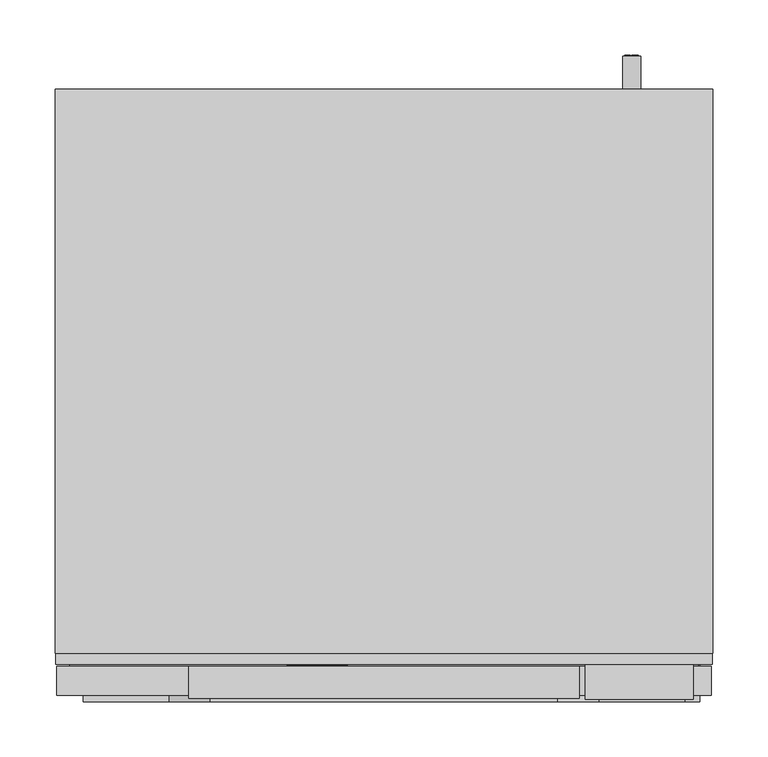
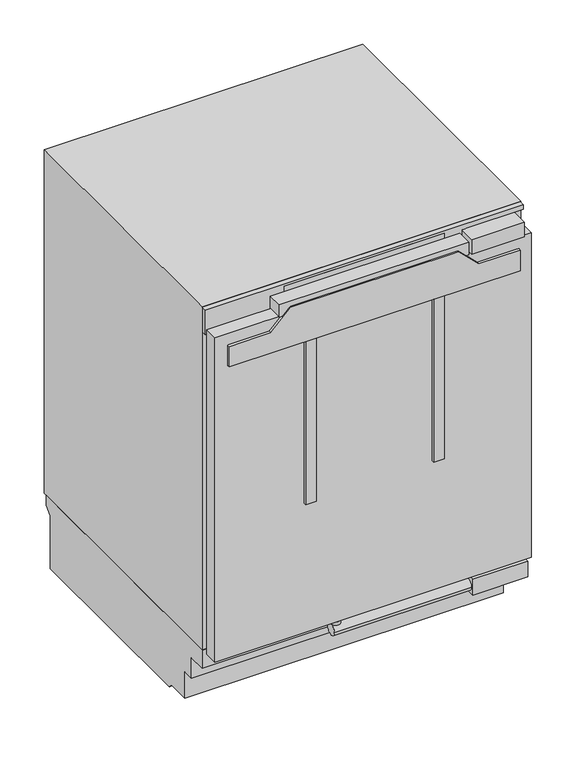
"""IFC4 building model written with IfcOpenShell, lengths in millimetres: proxy geometry, 12519380_EU1_FNUS7040D : 37704010_EU1_12519380_FNUS7040D."""

from ifc_helpers import new_model, si_unit, point, frame, frame_2d, origin, origin_with_axes, place, context, project, spatial, polyline, circle_curve, ellipse_curve, trimmed, segment, composite_curve, outline, extrude, faceted_brep, source, transform, mapped, element, save
from ifc_brep_helpers import plane_surface, cylinder_surface, revolved_surface, extruded_surface, advanced_brep


def specialty_equipment_8ff5ed72(model_context):
    return source(origin(), model_context, "Body", "SolidModel", [
        extrude(outline(polyline([(795.9349293, -88.017), (795.9349293, -86.928), (789.9139293, -86.928), (789.9139293, -88.017), (788.4019293, -88.017), (788.4019293, -84.057), (789.9139293, -84.057), (789.9139293, -85.137), (793.7360541, -85.137), (788.4019293, -81.114), (793.8421516, -77.073), (789.9139293, -77.073), (789.9139293, -78.18), (788.4019293, -78.18), (788.4019293, -70.998), (789.9139293, -70.998), (789.9139293, -72.141), (795.9349293, -72.141), (795.9349293, -70.998), (797.4019293, -70.998), (797.4019293, -76.479), (794.0269293, -79.107), (797.4019293, -81.744), (797.4019293, -88.017), (795.9349293, -88.017)])), frame((0.0, 33.1, 0.0), z_axis=(0.0, 1.0, 0.0), x_axis=(0.0, 0.0, 1.0)), (0.0, 0.0, 1.0), 1.0),
        extrude(outline(polyline([(795.9349293, -51.495), (795.9349293, -50.415), (789.9139293, -50.415), (789.9139293, -51.495), (788.4019293, -51.495), (788.4019293, -44.196), (789.9139293, -44.196), (789.9139293, -45.303), (797.4019293, -45.303), (797.4019293, -51.495), (795.9349293, -51.495)])), frame((0.0, 33.1, 0.0), z_axis=(0.0, 1.0, 0.0), x_axis=(0.0, 0.0, 1.0)), (0.0, 0.0, 1.0), 1.0),
        extrude(outline(polyline([(796.8709293, -67.857), (795.4129293, -67.173), (796.8349293, -64.122), (798.2929293, -64.797), (796.8709293, -67.857)])), frame((0.0, 33.1, 0.0), z_axis=(0.0, 1.0, 0.0), x_axis=(0.0, 0.0, 1.0)), (0.0, 0.0, 1.0), 1.0),
        extrude(outline(polyline([(795.2149293, -70.08), (793.6039293, -70.08), (793.6039293, -69.009), (789.9139293, -69.009), (789.9139293, -70.08), (788.4019293, -70.08), (788.4019293, -62.979), (789.9139293, -62.979), (789.9139293, -64.023), (795.2149293, -64.023), (795.2149293, -70.08)])), frame((0.0, 33.1, 0.0), z_axis=(0.0, 1.0, 0.0), x_axis=(0.0, 0.0, 1.0)), (0.0, 0.0, 1.0), 1.0),
        advanced_brep(
        [(-58.02, 33.1, 790.5349293), (-58.02, 33.1, 791.4439293), (-51.999, 33.1, 791.4439293), (-62.475, 33.1, 791.4439293), (-60.0, 33.1, 788.4019293), (-52.152, 33.1, 790.5349293), (-54.87, 33.1, 790.5349293), (-57.012, 33.1, 789.5269293), (-58.02, 33.1, 792.5959293), (-58.02, 33.1, 793.5769293), (-56.481, 33.1, 793.5769293), (-56.481, 33.1, 792.5959293), (-58.02, 34.1, 790.5349293), (-57.012, 34.1, 789.5269293), (-54.87, 34.1, 790.5349293), (-52.152, 34.1, 790.5349293), (-60.0, 34.1, 788.4019293), (-62.475, 34.1, 791.4439293), (-51.999, 34.1, 791.4439293), (-58.02, 34.1, 791.4439293), (-58.02, 34.1, 792.5959293), (-56.481, 34.1, 792.5959293), (-56.481, 34.1, 793.5769293), (-58.02, 34.1, 793.5769293)],
        [
            (0, 1),
            (1, 2),
            (2, 3, ellipse_curve(frame((-57.237, 33.1, 791.4439293), z_axis=(0.0, -1.0, 0.0), x_axis=(-1.0, 0.0, 0.0)), 5.238, 4.329)),
            (3, 4, circle_curve(frame((-58.9919509, 33.1, 791.7499293), z_axis=(0.0, -1.0, 0.0), x_axis=(0.0, 0.0, -1.0)), 3.4964649)),
            (4, 5, circle_curve(frame((-57.3418572, 33.1, 794.1259293), z_axis=(0.0, -1.0, 0.0), x_axis=(0.0, 0.0, -1.0)), 6.3110933)),
            (5, 6),
            (6, 7, circle_curve(frame((-56.5720588, 33.1, 791.3719293), z_axis=(0.0, 1.0, 0.0), x_axis=(0.0, 0.0, -1.0)), 1.896727)),
            (7, 0, circle_curve(frame((-57.012, 33.1, 790.5349293), z_axis=(0.0, 1.0, 0.0), x_axis=(0.0, 0.0, -1.0)), 1.008)),
            (8, 9),
            (9, 10, circle_curve(frame((-57.2505, 33.1, 793.5769293), z_axis=(0.0, 1.0, 0.0), x_axis=(0.0, 0.0, -1.0)), 0.7695)),
            (10, 11),
            (11, 8),
            (12, 13, circle_curve(frame((-57.012, 34.1, 790.5349293), z_axis=(0.0, -1.0, 0.0), x_axis=(0.0, 0.0, -1.0)), 1.008)),
            (13, 14, circle_curve(frame((-56.5720588, 34.1, 791.3719293), z_axis=(0.0, -1.0, 0.0), x_axis=(0.0, 0.0, -1.0)), 1.896727)),
            (14, 15),
            (15, 16, circle_curve(frame((-57.3418572, 34.1, 794.1259293), z_axis=(0.0, 1.0, 0.0), x_axis=(0.0, 0.0, -1.0)), 6.3110933)),
            (16, 17, circle_curve(frame((-58.9919509, 34.1, 791.7499293), z_axis=(0.0, 1.0, 0.0), x_axis=(0.0, 0.0, -1.0)), 3.4964649)),
            (17, 18, ellipse_curve(frame((-57.237, 34.1, 791.4439293), z_axis=(0.0, 1.0, 0.0), x_axis=(-1.0, 0.0, 0.0)), 5.238, 4.329)),
            (18, 19),
            (19, 12),
            (20, 21),
            (21, 22),
            (22, 23, circle_curve(frame((-57.2505, 34.1, 793.5769293), z_axis=(0.0, -1.0, 0.0), x_axis=(0.0, 0.0, -1.0)), 0.7695)),
            (23, 20),
            (0, 12),
            (19, 1),
            (18, 2),
            (5, 15),
            (14, 6),
            (17, 3),
            (13, 7),
            (16, 4),
            (8, 20),
            (23, 9),
            (22, 10),
            (21, 11),
        ],
        [
            plane_surface(frame((-58.02, 33.1, 791.4439293), z_axis=(0.0, -1.0, 0.0), x_axis=(0.0, 0.0, 1.0))),
            plane_surface(frame((-58.02, 34.1, 791.4439293), z_axis=(0.0, 1.0, 0.0), x_axis=(0.0, 0.0, -1.0))),
            plane_surface(frame((-58.02, 33.1, 790.5349293), z_axis=(1.0, 0.0, 0.0), x_axis=(0.0, 1.0, 0.0))),
            plane_surface(frame((-58.02, 33.1, 791.4439293), z_axis=(0.0, 0.0, -1.0), x_axis=(0.0, 1.0, 0.0))),
            plane_surface(frame((-52.152, 33.1, 790.5349293), z_axis=(0.0, 0.0, 1.0), x_axis=(0.0, 1.0, 0.0))),
            extruded_surface(trimmed(ellipse_curve(frame((-57.237, 35.1, 791.4439293), z_axis=(0.0, -1.0, 0.0), x_axis=(-1.0, 0.0, 0.0)), 5.238, 4.329), [point((-51.999, 35.1, 791.4439293))], [point((-62.475, 35.1, 791.4439293))], True, "CARTESIAN"), (0.0, -1.0, 0.0), 1.0),
            revolved_surface(polyline([(-56.5720588, 34.1, 789.4752023), (-56.5720588, 33.1, 789.4752023)]), (-56.5720588, 34.1, 791.3719293), (0.0, 1.0, 0.0)),
            revolved_surface(polyline([(-57.012, 34.1, 789.5269293), (-57.012, 33.1, 789.5269293)]), (-57.012, 34.1, 790.5349293), (0.0, 1.0, 0.0)),
            cylinder_surface(frame((-58.9919509, 34.1, 791.7499293), z_axis=(0.0, -1.0, 0.0), x_axis=(0.0, 0.0, -1.0)), 3.4964649),
            cylinder_surface(frame((-57.3418572, 34.1, 794.1259293), z_axis=(0.0, -1.0, 0.0), x_axis=(0.0, 0.0, -1.0)), 6.3110933),
            plane_surface(frame((-58.02, 33.1, 792.5959293), z_axis=(1.0, 0.0, 0.0), x_axis=(0.0, 1.0, 0.0))),
            revolved_surface(polyline([(-57.2505, 34.1, 792.8074293), (-57.2505, 33.1, 792.8074293)]), (-57.2505, 34.1, 793.5769293), (0.0, 1.0, 0.0)),
            plane_surface(frame((-56.481, 33.1, 793.5769293), z_axis=(-1.0, 0.0, 0.0), x_axis=(0.0, 1.0, 0.0))),
            plane_surface(frame((-56.481, 33.1, 792.5959293), z_axis=(0.0, 0.0, 1.0), x_axis=(0.0, 1.0, 0.0))),
        ],
        [
            (0, [[1, 2, 3, 4, 5, 6, 7, 8], [9, 10, 11, 12]]),
            (1, [[13, 14, 15, 16, 17, 18, 19, 20], [21, 22, 23, 24]]),
            (2, [[-1, 25, -20, 26]]),
            (3, [[-2, -26, -19, 27]]),
            (4, [[-6, 28, -15, 29]]),
            (5, [[-3, -27, -18, 30]]),
            (6, [[-7, -29, -14, 31]]),
            (7, [[-8, -31, -13, -25]]),
            (8, [[-4, -30, -17, 32]]),
            (9, [[-5, -32, -16, -28]]),
            (10, [[-9, 33, -24, 34]]),
            (11, [[-10, -34, -23, 35]]),
            (12, [[-11, -35, -22, 36]]),
            (13, [[-12, -36, -21, -33]]),
        ],
    ),
        advanced_brep(
        [(-39.237, 33.1, 790.5349293), (-39.237, 33.1, 791.4439293), (-33.216, 33.1, 791.4439293), (-43.692, 33.1, 791.4439293), (-41.217, 33.1, 788.4019293), (-33.369, 33.1, 790.5349293), (-36.087, 33.1, 790.5349293), (-38.229, 33.1, 789.5269293), (-39.237, 33.1, 792.5959293), (-39.237, 33.1, 793.5769293), (-37.698, 33.1, 793.5769293), (-37.698, 33.1, 792.5959293), (-39.237, 34.1, 790.5349293), (-38.229, 34.1, 789.5269293), (-36.087, 34.1, 790.5349293), (-33.369, 34.1, 790.5349293), (-41.217, 34.1, 788.4019293), (-43.692, 34.1, 791.4439293), (-33.216, 34.1, 791.4439293), (-39.237, 34.1, 791.4439293), (-39.237, 34.1, 792.5959293), (-37.698, 34.1, 792.5959293), (-37.698, 34.1, 793.5769293), (-39.237, 34.1, 793.5769293)],
        [
            (0, 1),
            (1, 2),
            (2, 3, ellipse_curve(frame((-38.454, 33.1, 791.4439293), z_axis=(0.0, -1.0, 0.0), x_axis=(-1.0, 0.0, 0.0)), 5.238, 4.329)),
            (3, 4, circle_curve(frame((-40.2089509, 33.1, 791.7499293), z_axis=(0.0, -1.0, 0.0), x_axis=(0.0, 0.0, -1.0)), 3.4964649)),
            (4, 5, circle_curve(frame((-38.5588572, 33.1, 794.1259293), z_axis=(0.0, -1.0, 0.0), x_axis=(0.0, 0.0, -1.0)), 6.3110933)),
            (5, 6),
            (6, 7, circle_curve(frame((-37.7890588, 33.1, 791.3719293), z_axis=(0.0, 1.0, 0.0), x_axis=(0.0, 0.0, -1.0)), 1.896727)),
            (7, 0, circle_curve(frame((-38.229, 33.1, 790.5349293), z_axis=(0.0, 1.0, 0.0), x_axis=(0.0, 0.0, -1.0)), 1.008)),
            (8, 9),
            (9, 10, circle_curve(frame((-38.4675, 33.1, 793.5769293), z_axis=(0.0, 1.0, 0.0), x_axis=(0.0, 0.0, -1.0)), 0.7695)),
            (10, 11),
            (11, 8),
            (12, 13, circle_curve(frame((-38.229, 34.1, 790.5349293), z_axis=(0.0, -1.0, 0.0), x_axis=(0.0, 0.0, -1.0)), 1.008)),
            (13, 14, circle_curve(frame((-37.7890588, 34.1, 791.3719293), z_axis=(0.0, -1.0, 0.0), x_axis=(0.0, 0.0, -1.0)), 1.896727)),
            (14, 15),
            (15, 16, circle_curve(frame((-38.5588572, 34.1, 794.1259293), z_axis=(0.0, 1.0, 0.0), x_axis=(0.0, 0.0, -1.0)), 6.3110933)),
            (16, 17, circle_curve(frame((-40.2089509, 34.1, 791.7499293), z_axis=(0.0, 1.0, 0.0), x_axis=(0.0, 0.0, -1.0)), 3.4964649)),
            (17, 18, ellipse_curve(frame((-38.454, 34.1, 791.4439293), z_axis=(0.0, 1.0, 0.0), x_axis=(-1.0, 0.0, 0.0)), 5.238, 4.329)),
            (18, 19),
            (19, 12),
            (20, 21),
            (21, 22),
            (22, 23, circle_curve(frame((-38.4675, 34.1, 793.5769293), z_axis=(0.0, -1.0, 0.0), x_axis=(0.0, 0.0, -1.0)), 0.7695)),
            (23, 20),
            (0, 12),
            (19, 1),
            (18, 2),
            (5, 15),
            (14, 6),
            (17, 3),
            (13, 7),
            (16, 4),
            (8, 20),
            (23, 9),
            (22, 10),
            (21, 11),
        ],
        [
            plane_surface(frame((-39.237, 33.1, 791.4439293), z_axis=(0.0, -1.0, 0.0), x_axis=(0.0, 0.0, 1.0))),
            plane_surface(frame((-39.237, 34.1, 791.4439293), z_axis=(0.0, 1.0, 0.0), x_axis=(0.0, 0.0, -1.0))),
            plane_surface(frame((-39.237, 33.1, 790.5349293), z_axis=(1.0, 0.0, 0.0), x_axis=(0.0, 1.0, 0.0))),
            plane_surface(frame((-39.237, 33.1, 791.4439293), z_axis=(0.0, 0.0, -1.0), x_axis=(0.0, 1.0, 0.0))),
            plane_surface(frame((-33.369, 33.1, 790.5349293), z_axis=(0.0, 0.0, 1.0), x_axis=(0.0, 1.0, 0.0))),
            extruded_surface(trimmed(ellipse_curve(frame((-38.454, 35.1, 791.4439293), z_axis=(0.0, -1.0, 0.0), x_axis=(-1.0, 0.0, 0.0)), 5.238, 4.329), [point((-33.216, 35.1, 791.4439293))], [point((-43.692, 35.1, 791.4439293))], True, "CARTESIAN"), (0.0, -1.0, 0.0), 1.0),
            revolved_surface(polyline([(-37.7890588, 34.1, 789.4752023), (-37.7890588, 33.1, 789.4752023)]), (-37.7890588, 34.1, 791.3719293), (0.0, 1.0, 0.0)),
            revolved_surface(polyline([(-38.229, 34.1, 789.5269293), (-38.229, 33.1, 789.5269293)]), (-38.229, 34.1, 790.5349293), (0.0, 1.0, 0.0)),
            cylinder_surface(frame((-40.2089509, 34.1, 791.7499293), z_axis=(0.0, -1.0, 0.0), x_axis=(0.0, 0.0, -1.0)), 3.4964649),
            cylinder_surface(frame((-38.5588572, 34.1, 794.1259293), z_axis=(0.0, -1.0, 0.0), x_axis=(0.0, 0.0, -1.0)), 6.3110933),
            plane_surface(frame((-39.237, 33.1, 792.5959293), z_axis=(1.0, 0.0, 0.0), x_axis=(0.0, 1.0, 0.0))),
            revolved_surface(polyline([(-38.4675, 34.1, 792.8074293), (-38.4675, 33.1, 792.8074293)]), (-38.4675, 34.1, 793.5769293), (0.0, 1.0, 0.0)),
            plane_surface(frame((-37.698, 33.1, 793.5769293), z_axis=(-1.0, 0.0, 0.0), x_axis=(0.0, 1.0, 0.0))),
            plane_surface(frame((-37.698, 33.1, 792.5959293), z_axis=(0.0, 0.0, 1.0), x_axis=(0.0, 1.0, 0.0))),
        ],
        [
            (0, [[1, 2, 3, 4, 5, 6, 7, 8], [9, 10, 11, 12]]),
            (1, [[13, 14, 15, 16, 17, 18, 19, 20], [21, 22, 23, 24]]),
            (2, [[-1, 25, -20, 26]]),
            (3, [[-2, -26, -19, 27]]),
            (4, [[-6, 28, -15, 29]]),
            (5, [[-3, -27, -18, 30]]),
            (6, [[-7, -29, -14, 31]]),
            (7, [[-8, -31, -13, -25]]),
            (8, [[-4, -30, -17, 32]]),
            (9, [[-5, -32, -16, -28]]),
            (10, [[-9, 33, -24, 34]]),
            (11, [[-10, -34, -23, 35]]),
            (12, [[-11, -35, -22, 36]]),
            (13, [[-12, -36, -21, -33]]),
        ],
    ),
        extrude(outline(polyline([(150.0048218, 34.0937347), (-150.0048218, 34.0937347), (-150.0048218, 44.0), (150.0048218, 44.0), (150.0048218, 34.0937347)])), frame((0.0, 0.0, 773.2139282), z_axis=(0.0, 0.0, 1.0), x_axis=(1.0, 0.0, 0.0)), (0.0, 0.0, 1.0), 39.9850464),
        extrude(outline(polyline([(817.6989746, 298.0), (817.6989746, -298.0), (768.7051238, -298.0), (768.7051238, 190.5), (809.0, 190.5), (809.0, 298.0), (817.6989746, 298.0)]), holes=[polyline([(813.1989746, -150.0048218), (813.1989746, 150.0048218), (773.2139282, 150.0048218), (773.2139282, -150.0048218), (813.1989746, -150.0048218)])]), frame((0.0, 34.0937347, 0.0), z_axis=(0.0, 1.0, 0.0), x_axis=(0.0, 0.0, 1.0)), (0.0, 0.0, 1.0), 9.9062653),
        faceted_brep([(-298.5, 550.1, 137.8999939), (-298.5, 550.1, 117.6051112), (-298.5, 537.6, 105.1051112), (-298.5, 537.6, 0.0), (-298.5, 150.9682763, 0.0), (-298.5, 142.6506717, 8.3176046), (-298.5, 100.0, 8.3176046), (-298.5, 100.0, 60.7725754), (-298.5, 79.0216446, 60.7725754), (-298.5, 79.0216446, 101.8184894), (-298.5, 44.0, 101.8184894), (-298.5, 44.0, 137.8999939), (298.5, 550.1, 137.8999939), (298.5, 44.0, 137.8999939), (298.5, 44.0, 101.8184894), (298.5, 79.0216446, 101.8184894), (298.5, 79.0216446, 60.7725754), (298.5, 100.0, 60.7725754), (298.5, 100.0, 8.3176046), (298.5, 142.6506717, 8.3176046), (298.5, 150.9682763, 0.0), (298.5, 537.6, 0.0), (298.5, 537.6, 105.1051112), (298.5, 550.1, 117.6051112), (296.7000122, 463.8596389, 0.0), (256.5957336, 463.8596389, 0.0), (256.5957336, 399.1975098, 0.0), (296.7000122, 399.1975098, 0.0), (-296.7000122, 463.8596389, 0.0), (-296.7000122, 399.1975098, 0.0), (-256.5957336, 399.1975098, 0.0), (-256.5957336, 463.8596389, 0.0), (296.7000122, 463.8596389, 8.7371401), (296.7000122, 399.1975098, 8.7371401), (256.5957336, 399.1975098, 8.7371401), (256.5957336, 463.8596389, 8.7371401), (-296.7000122, 463.8596389, 8.7371401), (-256.5957336, 463.8596389, 8.7371401), (-256.5957336, 399.1975098, 8.7371401), (-296.7000122, 399.1975098, 8.7371401)], [[[0, 1, 2, 3, 4, 5, 6, 7, 8, 9, 10, 11]], [[12, 13, 14, 15, 16, 17, 18, 19, 20, 21, 22, 23]], [[0, 11, 13, 12]], [[11, 10, 14, 13]], [[10, 9, 15, 14]], [[9, 8, 16, 15]], [[8, 7, 17, 16]], [[7, 6, 18, 17]], [[6, 5, 19, 18]], [[5, 4, 20, 19]], [[4, 3, 21, 20], [24, 25, 26, 27], [28, 29, 30, 31]], [[3, 2, 22, 21]], [[2, 1, 23, 22]], [[1, 0, 12, 23]], [[32, 33, 34, 35]], [[36, 37, 38, 39]], [[32, 35, 25, 24]], [[35, 34, 26, 25]], [[34, 33, 27, 26]], [[33, 32, 24, 27]], [[36, 39, 29, 28]], [[39, 38, 30, 29]], [[38, 37, 31, 30]], [[37, 36, 28, 31]]]),
        faceted_brep([(298.5, 44.0, 819.0), (298.5, 44.0, 137.8999939), (298.5, 556.2, 137.8999939), (298.5, 556.2, 819.0), (-298.5, 44.0, 819.0), (-298.5, 556.2, 819.0), (-298.5, 556.2, 137.8999939), (-298.5, 44.0, 137.8999939), (263.0, 44.0, 719.0), (263.0, 44.0, 150.0), (-263.0, 44.0, 150.0), (-263.0, 44.0, 719.0), (263.0, 510.8638012, 150.0), (263.0, 510.8638012, 719.0), (-263.0, 510.8638012, 719.0), (-263.0, 510.8638012, 150.0)], [[[0, 1, 2, 3]], [[4, 5, 6, 7]], [[1, 0, 4, 7], [8, 9, 10, 11]], [[2, 1, 7, 6]], [[3, 2, 6, 5]], [[0, 3, 5, 4]], [[12, 13, 14, 15]], [[13, 12, 9, 8]], [[14, 13, 8, 11]], [[15, 14, 11, 10]], [[12, 15, 10, 9]]]),
        extrude(outline(polyline([(263.0, 510.8638012), (263.0, 339.3), (-263.0, 339.3), (-263.0, 510.8638012), (263.0, 510.8638012)])), frame((0.0, 0.0, 150.0), z_axis=(0.0, 0.0, 1.0), x_axis=(1.0, 0.0, 0.0)), (0.0, 0.0, 1.0), 71.8999939),
        extrude(outline(composite_curve([segment(trimmed(circle_curve(frame_2d((-270.8532135, 135.87603)), 15.7049948), [point((-286.5582083, 135.87603))], [point((-255.1482187, 135.87603))], False, "CARTESIAN"), True, "CONTINUOUS"), segment(trimmed(circle_curve(frame_2d((-270.8532135, 135.87603)), 15.7049948), [point((-255.1482187, 135.87603))], [point((-286.5582083, 135.87603))], False, "CARTESIAN"), True, "CONTINUOUS")], self_intersect=False)), origin_with_axes(), (0.0, 0.0, 1.0), 8.3176046),
        extrude(outline(composite_curve([segment(trimmed(circle_curve(frame_2d((270.8532135, 135.87603)), 15.7049948), [point((286.5582083, 135.87603))], [point((255.1482187, 135.87603))], False, "CARTESIAN"), True, "CONTINUOUS"), segment(trimmed(circle_curve(frame_2d((270.8532135, 135.87603)), 15.7049948), [point((255.1482187, 135.87603))], [point((286.5582083, 135.87603))], False, "CARTESIAN"), True, "CONTINUOUS")], self_intersect=False)), origin_with_axes(), (0.0, 0.0, 1.0), 8.3176046),
        extrude(outline(composite_curve([segment(trimmed(circle_curve(frame_2d((-275.822369, 437.7385329)), 16.0), [point((-291.822369, 437.7385329))], [point((-259.822369, 437.7385329))], False, "CARTESIAN"), True, "CONTINUOUS"), segment(trimmed(circle_curve(frame_2d((-275.822369, 437.7385329)), 16.0), [point((-259.822369, 437.7385329))], [point((-291.822369, 437.7385329))], False, "CARTESIAN"), True, "CONTINUOUS")], self_intersect=False)), origin_with_axes(), (0.0, 0.0, 1.0), 8.3176046),
        extrude(outline(composite_curve([segment(trimmed(circle_curve(frame_2d((275.822369, 437.7385329)), 16.0), [point((259.822369, 437.7385329))], [point((291.822369, 437.7385329))], False, "CARTESIAN"), True, "CONTINUOUS"), segment(trimmed(circle_curve(frame_2d((275.822369, 437.7385329)), 16.0), [point((291.822369, 437.7385329))], [point((259.822369, 437.7385329))], False, "CARTESIAN"), True, "CONTINUOUS")], self_intersect=False)), origin_with_axes(), (0.0, 0.0, 1.0), 8.3176046),
        extrude(outline(composite_curve([segment(trimmed(circle_curve(frame_2d((144.2460785, 224.8152695)), 8.0), [point((144.2460785, 216.8152695))], [point((144.2460785, 232.8152695))], False, "CARTESIAN"), True, "CONTINUOUS"), segment(trimmed(circle_curve(frame_2d((144.2460785, 224.8152695)), 8.0), [point((144.2460785, 232.8152695))], [point((144.2460785, 216.8152695))], False, "CARTESIAN"), True, "CONTINUOUS")], self_intersect=False)), frame((0.0, 556.2, 0.0), z_axis=(0.0, 1.0, 0.0), x_axis=(0.0, 0.0, 1.0)), (0.0, 0.0, 1.0), 30.0),
        extrude(outline(polyline([(140.2460785, 230.7170777), (148.2825833, 230.7170777), (148.2825833, 224.9408399), (147.2780202, 224.9408399), (147.2780202, 229.7125146), (144.8921828, 229.7125146), (144.8921828, 225.1919806), (143.8876197, 225.1919806), (143.8876197, 229.7125146), (141.2506416, 229.7125146), (141.2506416, 224.8152695), (140.2460785, 224.8152695), (140.2460785, 230.7170777)])), frame((0.0, 586.2, 0.0), z_axis=(0.0, 1.0, 0.0), x_axis=(0.0, 0.0, 1.0)), (0.0, 0.0, 1.0), 1.0),
        extrude(outline(polyline([(140.2460785, 223.3084248), (148.2825833, 223.3084248), (148.2825833, 222.3038617), (141.2506416, 222.3038617), (141.2506416, 218.2856093), (140.2460785, 218.2856093), (140.2460785, 223.3084248)])), frame((0.0, 586.2, 0.0), z_axis=(0.0, 1.0, 0.0), x_axis=(0.0, 0.0, 1.0)), (0.0, 0.0, 1.0), 1.0),
        extrude(outline(polyline([(280.7999573, 2.0229698), (182.5283813, 2.0229698), (182.5283813, 44.0), (280.7999573, 44.0), (280.7999573, 2.0229698)])), frame((0.0, 0.0, 780.0), z_axis=(0.0, 0.0, 1.0), x_axis=(1.0, 0.0, 0.0)), (0.0, 0.0, 1.0), 28.7067261),
        extrude(outline(polyline([(297.0, 6.0), (-297.0, 6.0), (-297.0, 32.0), (297.0, 32.0), (297.0, 6.0)])), frame((0.0, 0.0, 136.0), z_axis=(0.0, 0.0, 1.0), x_axis=(1.0, 0.0, 0.0)), (0.0, 0.0, 1.0), 644.0),
        extrude(outline(polyline([(285.0, 44.0), (285.0, 32.0), (-285.0, 32.0), (-285.0, 44.0), (285.0, 44.0)])), frame((0.0, 0.0, 148.5030441), z_axis=(0.0, 0.0, 1.0), x_axis=(1.0, 0.0, 0.0)), (0.0, 0.0, 1.0), 615.9969559),
        extrude(outline(polyline([(804.6210938, 177.3252429), (804.6210938, -177.3251393), (780.0, -177.3252429), (780.0, 177.3252429), (804.6210938, 177.3252429)])), frame((0.0, 3.0, 0.0), z_axis=(0.0, 1.0, 0.0), x_axis=(0.0, 0.0, 1.0)), (0.0, 0.0, 1.0), 29.0),
        extrude(outline(composite_curve([segment(trimmed(circle_curve(frame_2d((14.2130013, 118.3500061)), 10.647874), [point((3.5651273, 118.3500061))], [point((24.8608752, 118.3500061))], False, "CARTESIAN"), True, "CONTINUOUS"), segment(trimmed(circle_curve(frame_2d((14.2130013, 118.3500061)), 10.647874), [point((24.8608752, 118.3500061))], [point((3.5651273, 118.3500061))], False, "CARTESIAN"), True, "CONTINUOUS")], self_intersect=False)), frame((-73.8137398, 0.0, 0.0), z_axis=(1.0, 0.0, 0.0), x_axis=(0.0, 1.0, 0.0)), (0.0, 0.0, 1.0), 257.1515813),
        extrude(outline(composite_curve([segment(trimmed(circle_curve(frame_2d((-65.2000504, 14.2130013)), 8.0), [point((-73.2000504, 14.2130013))], [point((-57.2000504, 14.2130013))], False, "CARTESIAN"), True, "CONTINUOUS"), segment(trimmed(circle_curve(frame_2d((-65.2000504, 14.2130013)), 8.0), [point((-57.2000504, 14.2130013))], [point((-73.2000504, 14.2130013))], False, "CARTESIAN"), True, "CONTINUOUS")], self_intersect=False)), frame((0.0, 0.0, 128.9978801), z_axis=(0.0, 0.0, 1.0), x_axis=(1.0, 0.0, 0.0)), (0.0, 0.0, 1.0), 7.0021199),
        extrude(outline(polyline([(286.7815857, 0.0), (183.3378415, 0.0), (183.3378415, 44.0), (286.7815857, 44.0), (286.7815857, 0.0)])), frame((0.0, 0.0, 104.8), z_axis=(0.0, 0.0, 1.0), x_axis=(1.0, 0.0, 0.0)), (0.0, 0.0, 1.0), 31.2),
        extrude(outline(polyline([(757.315066, -195.1876874), (757.315066, -272.9755319), (716.8499888, -272.9755319), (716.8499888, 272.9755319), (757.315066, 272.9755319), (757.315066, 195.1876874), (794.938205, 157.5645484), (794.938205, -157.5645484), (757.315066, -195.1876874)])), frame((0.0, 0.0, 0.0), z_axis=(0.0, 1.0, 0.0), x_axis=(0.0, 0.0, 1.0)), (0.0, 0.0, 1.0), 6.0),
        extrude(outline(polyline([(-110.0, 0.0), (-130.0, 0.0), (-130.0, 6.0), (-110.0, 6.0), (-110.0, 0.0)])), frame((0.0, 0.0, 394.1054382), z_axis=(0.0, 0.0, 1.0), x_axis=(1.0, 0.0, 0.0)), (0.0, 0.0, 1.0), 322.7445505),
        extrude(outline(polyline([(130.0, 0.0), (110.0, 0.0), (110.0, 6.0), (130.0, 6.0), (130.0, 0.0)])), frame((0.0, 0.0, 394.1054382), z_axis=(0.0, 0.0, 1.0), x_axis=(1.0, 0.0, 0.0)), (0.0, 0.0, 1.0), 322.7445505),
    ])


if __name__ == "__main__":
    model = new_model("IFC4")
    model_context = context("Model", 3, world=origin())
    ifc_project = project(units=[si_unit("LENGTHUNIT", "METRE", prefix="MILLI")], contexts=[model_context])
    site = spatial("IfcSite", under=ifc_project)
    building = spatial("IfcBuilding", under=site)
    placement = place(None, origin())
    specialty_equipment_shape = specialty_equipment_8ff5ed72(model_context)
    element("IfcBuildingElementProxy", 1, Name="12519380_EU1_FNUS7040D : 37704010_EU1_12519380_FNUS7040D", ObjectType="12519380_EU1_FNUS7040D : 37704010_EU1_12519380_FNUS7040D", at=placement, inside=building, context=model_context, shape_type="MappedRepresentation", body=[
        mapped(specialty_equipment_shape, transform((0.0, 0.0, 0.0), x_axis=(1.0, 0.0, 0.0), y_axis=(0.0, 1.0, 0.0), z_axis=(0.0, 0.0, 1.0))),
    ])
    save(model, "model.ifc")
